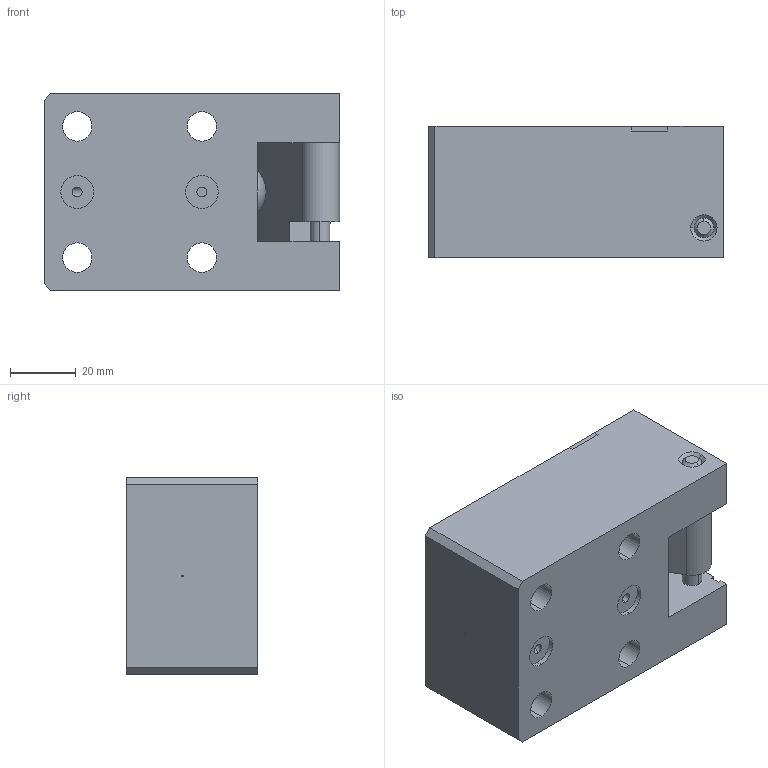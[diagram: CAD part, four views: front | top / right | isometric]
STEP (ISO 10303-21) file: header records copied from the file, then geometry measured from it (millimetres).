
FILE_DESCRIPTION (( 'STEP AP203' ), '1' );
FILE_NAME ('PDSC-0601 LOW BLOCK CYLINDER.STEP', '2022-07-11T16:19:12', ( '' ), ( '' ), 'SwSTEP 2.0', 'SolidWorks 2017', '' );
FILE_SCHEMA (( 'CONFIG_CONTROL_DESIGN' ));
Length unit declared in the file: millimetre
Products named in the file (6): PDSC-0601 LOW BLOCK CYLINDER; PDSC Body; PDSC piston; COVER; low block; pin
Assembly tree (5 placements, depth 2):
  PDSC-0601 LOW BLOCK CYLINDER
    PDSC Body
    PDSC piston
    COVER
    low block
    pin
Bounding box: 90 x 40.07 x 60 mm (x, y, z)
Volume: 201806.8 mm3; surface area: 40794.2 mm2
Topology: 5 solids, 5 shells, 291 faces, 741 edges, 488 vertices
Faces by surface type: plane 134, bspline 96, cylinder 48, cone 12, sphere 1
Entity records: 14676 total; most frequent: CARTESIAN_POINT 7561, ORIENTED_EDGE 1468, DIRECTION 1056, EDGE_CURVE 734, VERTEX_POINT 486, LINE 438, VECTOR 438, EDGE_LOOP 344
